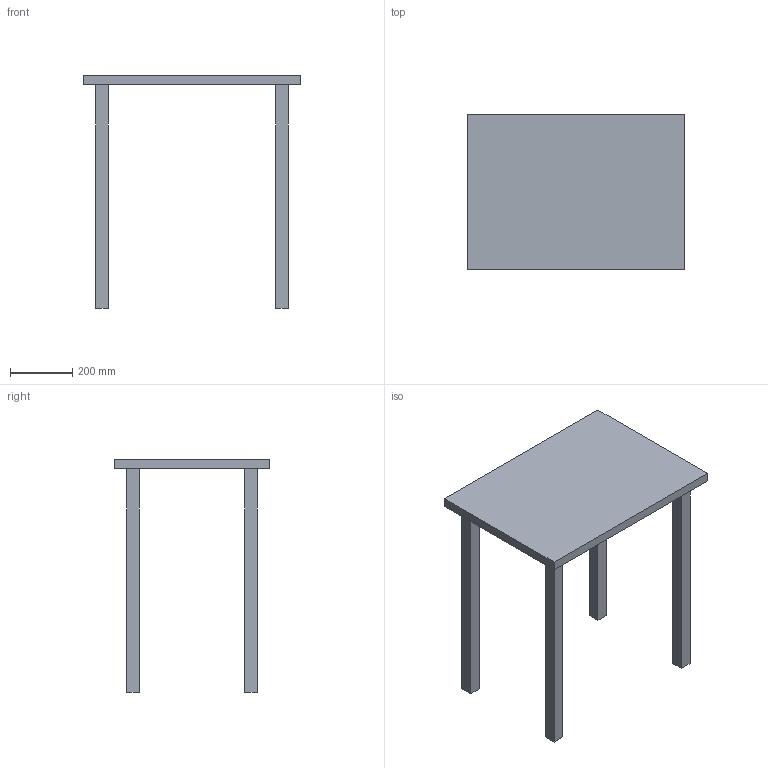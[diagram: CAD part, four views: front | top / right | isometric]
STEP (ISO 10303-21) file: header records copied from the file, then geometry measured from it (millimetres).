
FILE_DESCRIPTION(('Open CASCADE Model'),'2;1');
FILE_NAME('Open CASCADE Shape Model','2026-10-28T20:18:23',('Author'),( 'Open CASCADE'),'Open CASCADE STEP processor 7.8','Open CASCADE 7.8' ,'Unknown');
FILE_SCHEMA(('AUTOMOTIVE_DESIGN { 1 0 10303 214 1 1 1 1 }'));
Length unit declared in the file: millimetre
Products named in the file (6): Photo_derived_furniture_REVIEW; F001; F002; F003; F004; F005
Assembly tree (5 placements, depth 2):
  Photo_derived_furniture_REVIEW
    F001
    F002
    F003
    F004
    F005
Bounding box: 700 x 500 x 750 mm (x, y, z)
Volume: 15108000 mm3; surface area: 1245600 mm2
Topology: 5 solids, 5 shells, 30 faces, 60 edges, 40 vertices
Faces by surface type: plane 30
Entity records: 1677 total; most frequent: CARTESIAN_POINT 256, DIRECTION 252, LINE 180, VECTOR 180, ORIENTED_EDGE 120, PCURVE 120, DEFINITIONAL_REPRESENTATION 120, EDGE_CURVE 60
